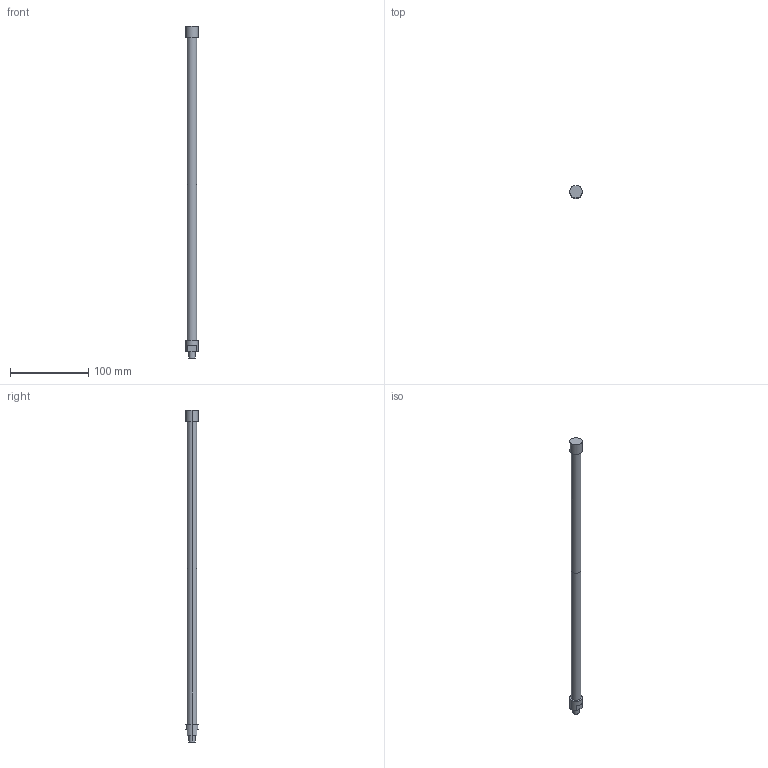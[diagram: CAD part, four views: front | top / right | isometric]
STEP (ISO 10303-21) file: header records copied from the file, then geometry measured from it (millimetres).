
FILE_DESCRIPTION(('STEP AP214'),'1');
FILE_NAME('C:/Users/Autocad/Desktop/L425-C240 MN.stp','2014-02-10T09:26:59',(' '),(' '),'Spatial InterOp 3D',' ',' ');
FILE_SCHEMA(('automotive_design'));
Length unit declared in the file: metre
Products named in the file (2): 1; 2
Bounding box: 16 x 16 x 425 mm (x, y, z)
Volume: 30926.5 mm3; surface area: 24233.6 mm2
Topology: 1 solids, 5 shells, 27 faces, 62 edges, 46 vertices
Faces by surface type: cylinder 14, plane 13
Entity records: 1056 total; most frequent: DIRECTION 158, CARTESIAN_POINT 137, ORIENTED_EDGE 112, AXIS2_PLACEMENT_3D 67, EDGE_CURVE 62, VERTEX_POINT 46, CIRCLE 38, EDGE_LOOP 32
